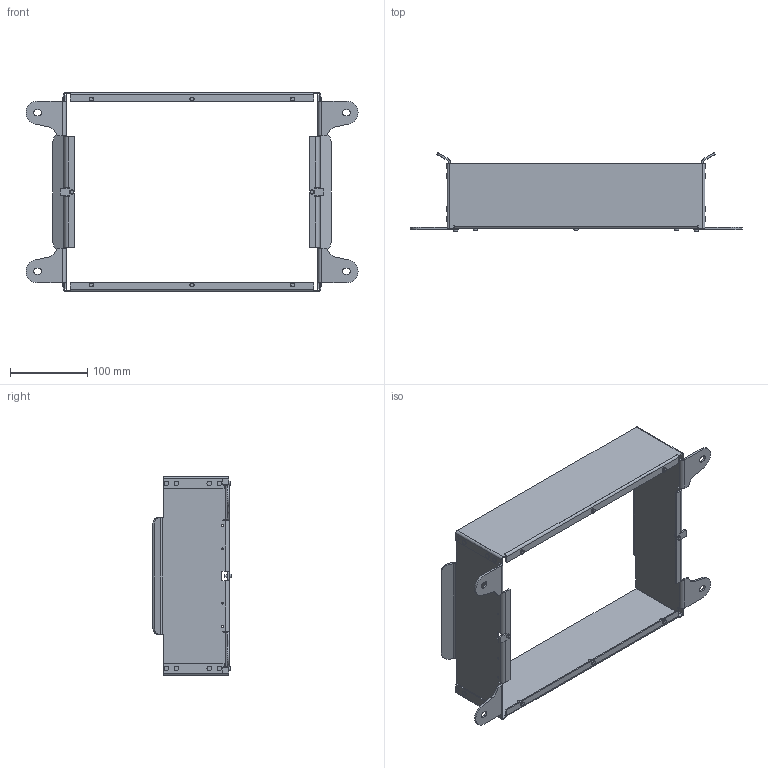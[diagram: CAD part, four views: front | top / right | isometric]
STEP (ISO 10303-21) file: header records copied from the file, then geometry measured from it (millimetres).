
FILE_DESCRIPTION (( 'STEP AP214' ), '1' );
FILE_NAME ('Asyril_PLATFORM FRAME H=60mm - 380_000.102.650_(option).STEP', '2019-04-01T12:03:19', ( 'Standard' ), ( '' ), 'SwSTEP 2.0', 'SolidWorks 2017', '' );
FILE_SCHEMA (( 'AUTOMOTIVE_DESIGN' ));
Length unit declared in the file: millimetre
Products named in the file (1): Asyril_PLATFORM FRAME H=60mm - 380_000.102.650_(option)
Bounding box: 428.99 x 101.51 x 257 mm (x, y, z)
Volume: 243185.4 mm3; surface area: 248013.8 mm2
Topology: 1 solids, 1 shells, 438 faces, 1070 edges, 660 vertices
Faces by surface type: plane 220, cylinder 186, torus 16, cone 16
Entity records: 14136 total; most frequent: DIRECTION 2384, CARTESIAN_POINT 2169, ORIENTED_EDGE 2140, EDGE_CURVE 1070, AXIS2_PLACEMENT_3D 875, VERTEX_POINT 660, VECTOR 634, LINE 634
